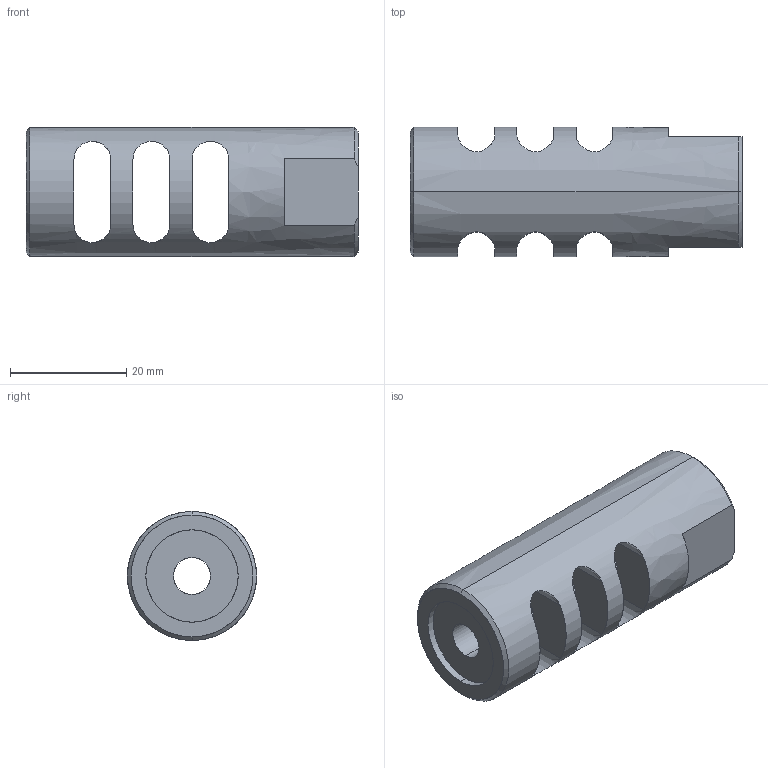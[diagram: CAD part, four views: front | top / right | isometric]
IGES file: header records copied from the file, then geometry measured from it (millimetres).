
Start section: SolidWorks IGES file using analytic representation for surfaces
Global section: file name: C:\Users\Shane\Desktop\Muzzle Break.IGS; native system: SolidWorks 2011; preprocessor: SolidWorks 2011; author: Shane; date: 120428.221937; units: inch
Bounding box: 57.15 x 22.23 x 22.23 mm (x, y, z)
Surface area: 7200.8 mm2 (no closed solid volume)
Topology: 0 solids, 0 shells, 42 faces, 1111 edges, 1111 vertices
Faces by surface type: revolution 28, bspline 14
